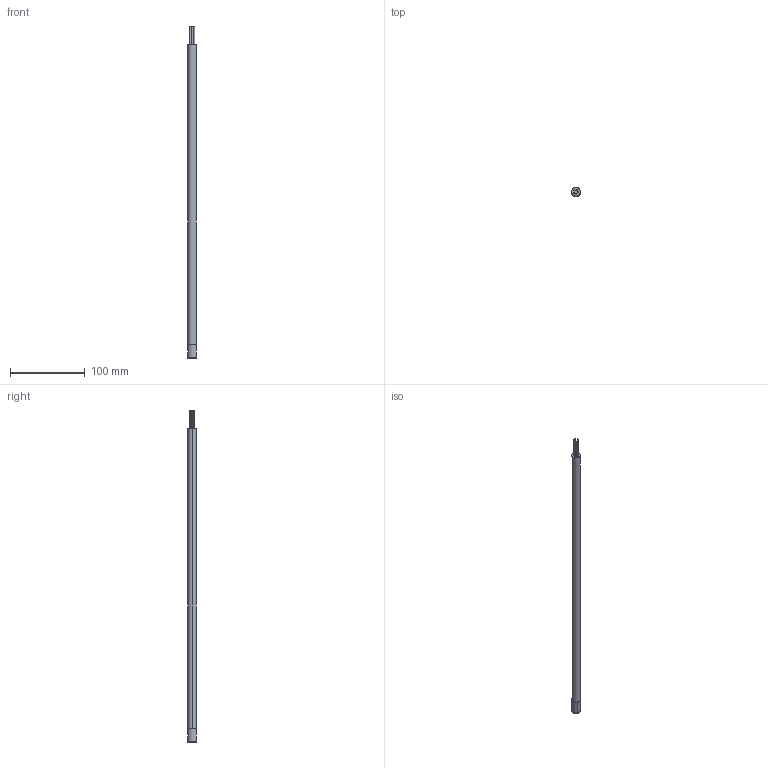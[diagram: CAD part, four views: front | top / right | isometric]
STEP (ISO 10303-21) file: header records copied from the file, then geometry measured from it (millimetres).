
FILE_DESCRIPTION (( 'STEP AP203' ), '1' );
FILE_NAME ('O2S-T6.STEP', '2019-02-11T09:38:23', ( '' ), ( '' ), 'SwSTEP 2.0', 'SolidWorks 2018', '' );
FILE_SCHEMA (( 'CONFIG_CONTROL_DESIGN' ));
Length unit declared in the file: millimetre
Products named in the file (1): O2S-T6
Bounding box: 12 x 12 x 443.44 mm (x, y, z)
Volume: 47533.7 mm3; surface area: 16609.8 mm2
Topology: 1 solids, 1 shells, 32 faces, 66 edges, 42 vertices
Faces by surface type: cylinder 18, plane 8, cone 4, torus 2
Entity records: 943 total; most frequent: DIRECTION 176, CARTESIAN_POINT 141, ORIENTED_EDGE 132, AXIS2_PLACEMENT_3D 77, EDGE_CURVE 66, CIRCLE 44, VERTEX_POINT 42, EDGE_LOOP 38
